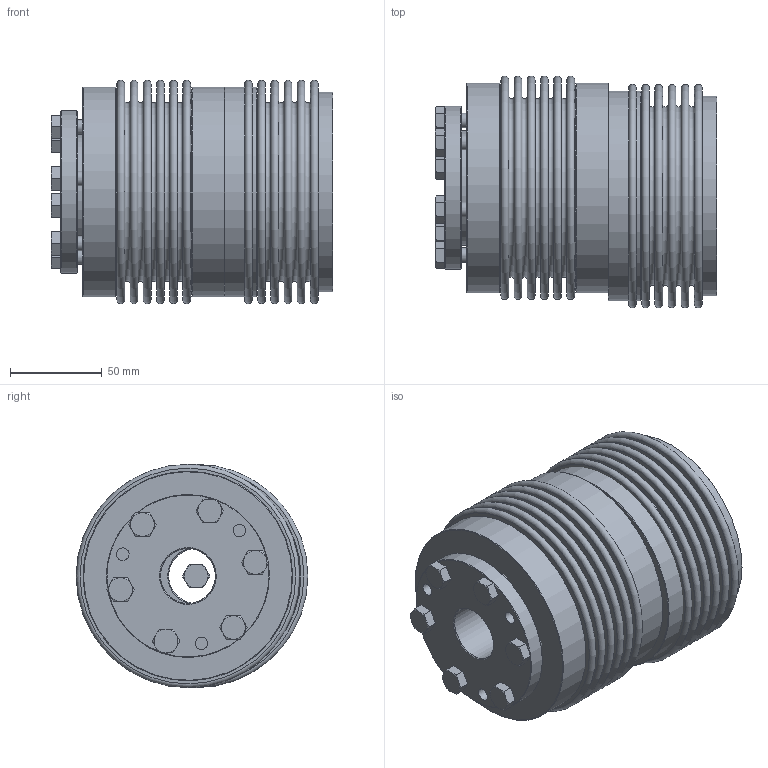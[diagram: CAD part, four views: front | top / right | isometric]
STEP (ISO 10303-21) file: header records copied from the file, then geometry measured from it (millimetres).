
FILE_DESCRIPTION( ( 'Unknown' ), '1' );
FILE_NAME( 'C:/Dokumente und Einstellungen/Sven/Desktop/homepage/cad - homepage/KB5/KB5-500-112.stp', 'Unknown', ( 'Unknown' ), ( 'Unknown' ), 'XStep 1.0', 'Unknown', ' ' );
FILE_SCHEMA( ( 'automotive_design' ) );
Length unit declared in the file: millimetre
Products named in the file (5): Assem1; KB500_Standard_0; Hex Screw GradeC_ISO_ISO 4018 - M8 x 35-NN_0; BA500_Standard_0; BL500_Standard
Bounding box: 153.77 x 126.5 x 122 mm (x, y, z)
Volume: 1016620.5 mm3; surface area: 432464.8 mm2
Topology: 21 solids, 21 shells, 439 faces, 897 edges, 567 vertices
Faces by surface type: plane 187, cone 127, cylinder 81, torus 44
Full cylindrical faces by diameter (mm): 6.8 x27, 8 x13, 9 x18, 30 x3, 62.6 x3, 89 x3, 93 x3, 107.7 x4, 108.9 x4, 114.5 x3
Entity records: 2766 total; most frequent: DIRECTION 490, CARTESIAN_POINT 425, ORIENTED_EDGE 276, AXIS2_PLACEMENT_3D 239, EDGE_LOOP 230, FACE_OUTER_BOUND 154, EDGE_CURVE 138, VERTEX_POINT 126
